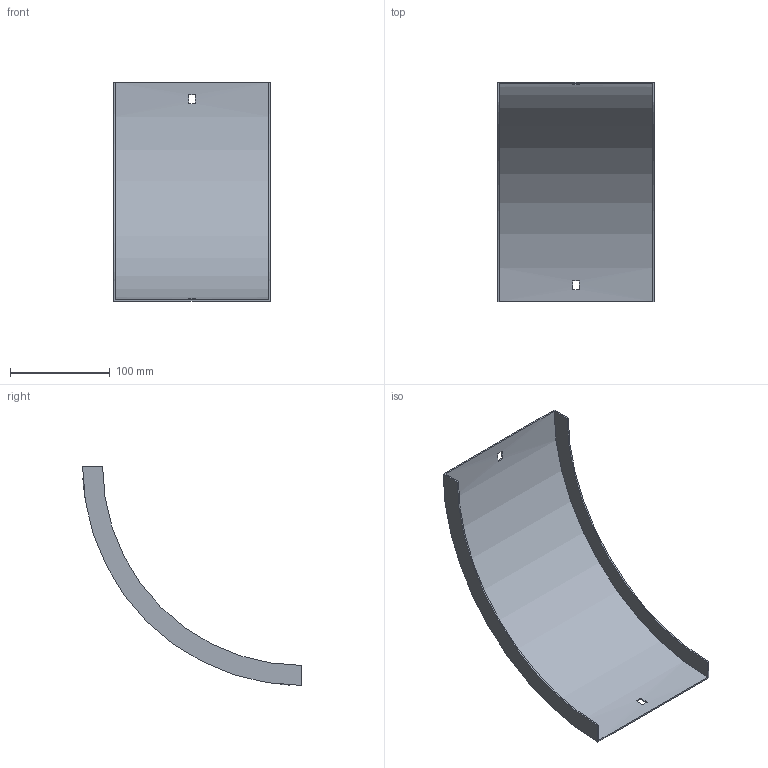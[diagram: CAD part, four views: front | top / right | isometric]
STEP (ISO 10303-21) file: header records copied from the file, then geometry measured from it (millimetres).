
FILE_DESCRIPTION (( 'STEP AP214' ), '1' );
FILE_NAME ('33N1J150.step', '2025-02-21T09:17:26', ( '' ), ( '' ), 'SwSTEP 2.0', 'SolidWorks 2023', '' );
FILE_SCHEMA (( 'AUTOMOTIVE_DESIGN' ));
Length unit declared in the file: millimetre
Products named in the file (1): 33N1J150
Bounding box: 157 x 219 x 219 mm (x, y, z)
Volume: 98714.6 mm3; surface area: 133236.1 mm2
Topology: 1 solids, 1 shells, 18 faces, 48 edges, 32 vertices
Faces by surface type: plane 14, cylinder 4
Entity records: 599 total; most frequent: DIRECTION 102, CARTESIAN_POINT 99, ORIENTED_EDGE 96, EDGE_CURVE 48, AXIS2_PLACEMENT_3D 35, VERTEX_POINT 32, VECTOR 32, LINE 32
